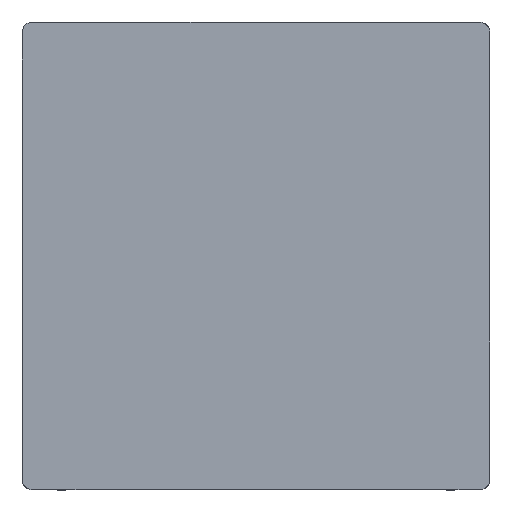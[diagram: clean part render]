
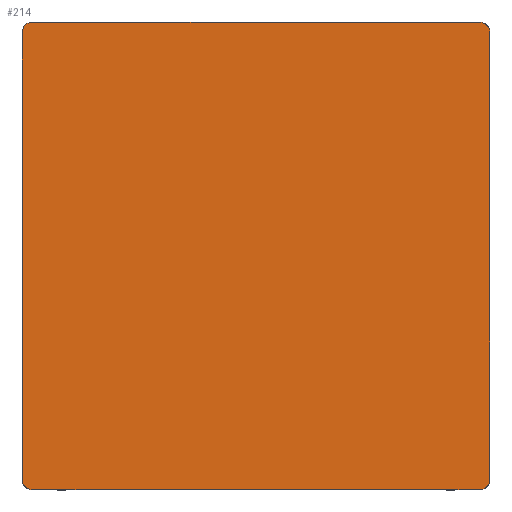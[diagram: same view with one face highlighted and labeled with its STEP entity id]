
A CAD part, top view. The second image highlights one B-rep face of the part: STEP entity #214.
In plain terms, the highlighted planar face has unit normal (0, 0, 1).
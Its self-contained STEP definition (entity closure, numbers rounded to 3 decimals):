
#214=ADVANCED_FACE($,(#438),#2787,.T.);
#438=FACE_OUTER_BOUND($,#668,.T.);
#668=EDGE_LOOP($,(#1436,#1437));
#1436=ORIENTED_EDGE($,*,*,#2115,.F.);
#1437=ORIENTED_EDGE($,*,*,#2112,.F.);
#2112=EDGE_CURVE($,#2489,#2491,#3080,.T.);
#2115=EDGE_CURVE($,#2491,#2489,#3083,.T.);
#2489=VERTEX_POINT($,#6749);
#2491=VERTEX_POINT($,#6751);
#2787=PLANE($,#3479);
#3080=B_SPLINE_CURVE_WITH_KNOTS($,3,(#6611,#6612,#6613,#6614,#6615,#6616,
#6617,#6618,#6619,#6620,#6621,#6622,#6623,#6624,#6625,#6626,#6627,#6628,
#6629),.UNSPECIFIED.,.F.,.F.,(4,1,1,1,3,3,1,1,1,3,4),(3856.655,3866.511,
3878.68,3890.914,3902.206,5142.206,5152.063,
5164.232,5176.466,5187.758,6427.758),.UNSPECIFIED.);
#3083=B_SPLINE_CURVE_WITH_KNOTS($,3,(#6651,#6652,#6653,#6654,#6655,#6656,
#6657,#6658,#6659,#6660,#6661,#6662,#6663,#6664,#6665,#6666,#6667,#6668,
#6669),.UNSPECIFIED.,.F.,.F.,(4,1,1,1,3,3,1,1,1,3,4),(6427.758,6437.614,
6449.783,6462.018,6473.31,7713.31,7723.166,
7735.335,7747.569,7758.861,8998.861),.UNSPECIFIED.);
#3479=AXIS2_PLACEMENT_3D($,#6709,#3580,$);
#3580=DIRECTION($,(0.,0.,1.));
#6611=CARTESIAN_POINT($,(30.,0.,304.));
#6612=CARTESIAN_POINT($,(26.601,0.,304.));
#6613=CARTESIAN_POINT($,(19.006,1.3,304.));
#6614=CARTESIAN_POINT($,(8.707,7.607,304.));
#6615=CARTESIAN_POINT($,(1.598,17.994,304.));
#6616=CARTESIAN_POINT($,(-0.001,26.106,304.));
#6617=CARTESIAN_POINT($,(0.,30.,304.));
#6618=CARTESIAN_POINT($,(0.,443.333,304.));
#6619=CARTESIAN_POINT($,(0.,856.667,304.));
#6620=CARTESIAN_POINT($,(0.,1270.,304.));
#6621=CARTESIAN_POINT($,(0.,1273.399,304.));
#6622=CARTESIAN_POINT($,(1.3,1280.994,304.));
#6623=CARTESIAN_POINT($,(7.607,1291.293,304.));
#6624=CARTESIAN_POINT($,(17.994,1298.402,304.));
#6625=CARTESIAN_POINT($,(26.106,1300.001,304.));
#6626=CARTESIAN_POINT($,(30.,1300.,304.));
#6627=CARTESIAN_POINT($,(443.333,1300.,304.));
#6628=CARTESIAN_POINT($,(856.667,1300.,304.));
#6629=CARTESIAN_POINT($,(1270.,1300.,304.));
#6651=CARTESIAN_POINT($,(1270.,1300.,304.));
#6652=CARTESIAN_POINT($,(1273.399,1300.,304.));
#6653=CARTESIAN_POINT($,(1280.994,1298.7,304.));
#6654=CARTESIAN_POINT($,(1291.293,1292.393,304.));
#6655=CARTESIAN_POINT($,(1298.402,1282.006,304.));
#6656=CARTESIAN_POINT($,(1300.001,1273.894,304.));
#6657=CARTESIAN_POINT($,(1300.,1270.,304.));
#6658=CARTESIAN_POINT($,(1300.,856.667,304.));
#6659=CARTESIAN_POINT($,(1300.,443.333,304.));
#6660=CARTESIAN_POINT($,(1300.,30.,304.));
#6661=CARTESIAN_POINT($,(1300.,26.601,304.));
#6662=CARTESIAN_POINT($,(1298.7,19.006,304.));
#6663=CARTESIAN_POINT($,(1292.393,8.707,304.));
#6664=CARTESIAN_POINT($,(1282.006,1.598,304.));
#6665=CARTESIAN_POINT($,(1273.894,-0.001,304.));
#6666=CARTESIAN_POINT($,(1270.,0.,304.));
#6667=CARTESIAN_POINT($,(856.667,0.,304.));
#6668=CARTESIAN_POINT($,(443.333,0.,304.));
#6669=CARTESIAN_POINT($,(30.,0.,304.));
#6709=CARTESIAN_POINT($,(-0.001,1300.001,304.));
#6749=CARTESIAN_POINT($,(30.,0.,304.));
#6751=CARTESIAN_POINT($,(1270.,1300.,304.));
